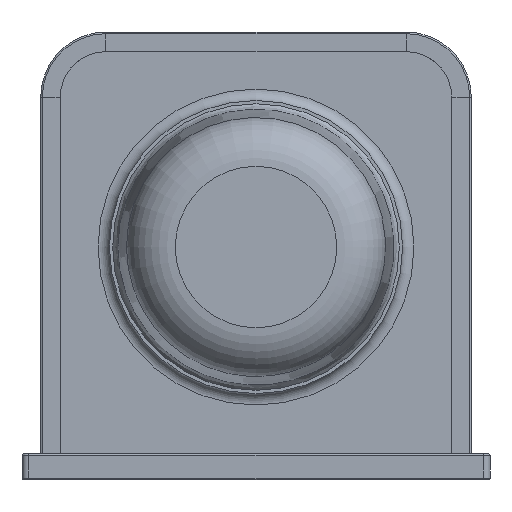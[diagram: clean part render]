
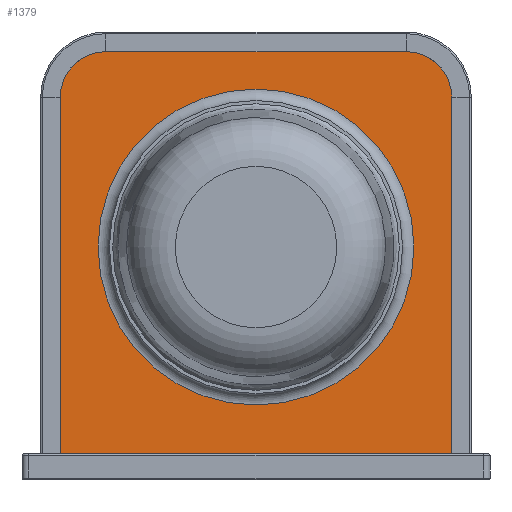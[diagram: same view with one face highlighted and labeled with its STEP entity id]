
A CAD part, front view. The second image highlights one B-rep face of the part: STEP entity #1379.
In plain terms, the highlighted planar face has unit normal (0, -1, 0).
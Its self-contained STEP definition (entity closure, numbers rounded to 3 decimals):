
#16=FACE_BOUND('',#446,.T.);
#24=B_SPLINE_CURVE_WITH_KNOTS('',3,(#4854,#4855,#4856,#4857,#4858,#4859,
#4860,#4861,#4862,#4863,#4864,#4865,#4866,#4867,#4868,#4869,#4870,#4871,
#4872,#4873,#4874,#4875,#4876,#4877,#4878,#4879,#4880,#4881,#4882,#4883,
#4884),.UNSPECIFIED.,.F.,.F.,(4,3,3,3,3,3,3,3,3,3,4),(0.,0.22,
0.44,0.661,0.881,1.101,1.321,
1.541,1.761,1.982,2.202),
 .UNSPECIFIED.);
#25=B_SPLINE_CURVE_WITH_KNOTS('',3,(#4888,#4889,#4890,#4891,#4892,#4893,
#4894,#4895,#4896,#4897,#4898,#4899,#4900,#4901,#4902,#4903,#4904,#4905,
#4906,#4907,#4908,#4909,#4910,#4911,#4912,#4913,#4914,#4915,#4916,#4917,
#4918),.UNSPECIFIED.,.F.,.F.,(4,3,3,3,3,3,3,3,3,3,4),(0.,0.22,
0.44,0.661,0.881,1.101,1.321,
1.541,1.761,1.982,2.202),
 .UNSPECIFIED.);
#167=LINE('',#4852,#253);
#168=LINE('',#4886,#254);
#169=LINE('',#4920,#255);
#170=LINE('',#4921,#256);
#253=VECTOR('',#2023,10.);
#254=VECTOR('',#2024,10.);
#255=VECTOR('',#2025,10.);
#256=VECTOR('',#2026,10.);
#351=FACE_OUTER_BOUND('',#445,.T.);
#445=EDGE_LOOP('',(#1220,#1221,#1222,#1223,#1224,#1225));
#446=EDGE_LOOP('',(#1226));
#552=CIRCLE('',#1584,48.5);
#664=VERTEX_POINT('',#4850);
#665=VERTEX_POINT('',#4851);
#666=VERTEX_POINT('',#4853);
#667=VERTEX_POINT('',#4885);
#668=VERTEX_POINT('',#4887);
#669=VERTEX_POINT('',#4919);
#670=VERTEX_POINT('',#4922);
#852=EDGE_CURVE('',#664,#665,#167,.T.);
#853=EDGE_CURVE('',#666,#664,#24,.T.);
#854=EDGE_CURVE('',#667,#666,#168,.T.);
#855=EDGE_CURVE('',#668,#667,#25,.T.);
#856=EDGE_CURVE('',#669,#668,#169,.T.);
#857=EDGE_CURVE('',#665,#669,#170,.T.);
#858=EDGE_CURVE('',#670,#670,#552,.T.);
#1220=ORIENTED_EDGE('',*,*,#852,.F.);
#1221=ORIENTED_EDGE('',*,*,#853,.F.);
#1222=ORIENTED_EDGE('',*,*,#854,.F.);
#1223=ORIENTED_EDGE('',*,*,#855,.F.);
#1224=ORIENTED_EDGE('',*,*,#856,.F.);
#1225=ORIENTED_EDGE('',*,*,#857,.F.);
#1226=ORIENTED_EDGE('',*,*,#858,.T.);
#1289=PLANE('',#1583);
#1379=ADVANCED_FACE('',(#351,#16),#1289,.F.);
#1583=AXIS2_PLACEMENT_3D('',#4849,#2021,#2022);
#1584=AXIS2_PLACEMENT_3D('',#4923,#2027,#2028);
#2021=DIRECTION('center_axis',(0.,1.,0.));
#2022=DIRECTION('ref_axis',(1.,0.,0.));
#2023=DIRECTION('',(0.,0.,-1.));
#2024=DIRECTION('',(1.,0.,0.));
#2025=DIRECTION('',(0.,0.,1.));
#2026=DIRECTION('',(-1.,0.,0.));
#2027=DIRECTION('center_axis',(0.,1.,0.));
#2028=DIRECTION('ref_axis',(-0.814,0.,-0.581));
#4849=CARTESIAN_POINT('Origin',(-1.65,1.85,1.825));
#4850=CARTESIAN_POINT('',(60.1,1.85,117.5));
#4851=CARTESIAN_POINT('',(60.1,1.85,8.));
#4852=CARTESIAN_POINT('',(60.1,1.85,117.5));
#4853=CARTESIAN_POINT('',(46.1,1.85,131.5));
#4854=CARTESIAN_POINT('Ctrl Pts',(46.1,1.85,131.5));
#4855=CARTESIAN_POINT('Ctrl Pts',(46.832,1.85,131.5));
#4856=CARTESIAN_POINT('Ctrl Pts',(47.566,1.85,131.442));
#4857=CARTESIAN_POINT('Ctrl Pts',(48.29,1.85,131.328));
#4858=CARTESIAN_POINT('Ctrl Pts',(49.014,1.85,131.213));
#4859=CARTESIAN_POINT('Ctrl Pts',(49.729,1.85,131.041));
#4860=CARTESIAN_POINT('Ctrl Pts',(50.426,1.85,130.815));
#4861=CARTESIAN_POINT('Ctrl Pts',(51.123,1.85,130.588));
#4862=CARTESIAN_POINT('Ctrl Pts',(51.803,1.85,130.307));
#4863=CARTESIAN_POINT('Ctrl Pts',(52.456,1.85,129.974));
#4864=CARTESIAN_POINT('Ctrl Pts',(53.109,1.85,129.641));
#4865=CARTESIAN_POINT('Ctrl Pts',(53.736,1.85,129.257));
#4866=CARTESIAN_POINT('Ctrl Pts',(54.329,1.85,128.826));
#4867=CARTESIAN_POINT('Ctrl Pts',(54.922,1.85,128.395));
#4868=CARTESIAN_POINT('Ctrl Pts',(55.481,1.85,127.918));
#4869=CARTESIAN_POINT('Ctrl Pts',(55.999,1.85,127.399));
#4870=CARTESIAN_POINT('Ctrl Pts',(56.518,1.85,126.881));
#4871=CARTESIAN_POINT('Ctrl Pts',(56.995,1.85,126.322));
#4872=CARTESIAN_POINT('Ctrl Pts',(57.426,1.85,125.729));
#4873=CARTESIAN_POINT('Ctrl Pts',(57.857,1.85,125.136));
#4874=CARTESIAN_POINT('Ctrl Pts',(58.241,1.85,124.509));
#4875=CARTESIAN_POINT('Ctrl Pts',(58.574,1.85,123.856));
#4876=CARTESIAN_POINT('Ctrl Pts',(58.907,1.85,123.203));
#4877=CARTESIAN_POINT('Ctrl Pts',(59.188,1.85,122.523));
#4878=CARTESIAN_POINT('Ctrl Pts',(59.415,1.85,121.826));
#4879=CARTESIAN_POINT('Ctrl Pts',(59.641,1.85,121.129));
#4880=CARTESIAN_POINT('Ctrl Pts',(59.813,1.85,120.414));
#4881=CARTESIAN_POINT('Ctrl Pts',(59.928,1.85,119.69));
#4882=CARTESIAN_POINT('Ctrl Pts',(60.042,1.85,118.966));
#4883=CARTESIAN_POINT('Ctrl Pts',(60.1,1.85,118.232));
#4884=CARTESIAN_POINT('Ctrl Pts',(60.1,1.85,117.5));
#4885=CARTESIAN_POINT('',(-46.1,1.85,131.5));
#4886=CARTESIAN_POINT('',(-46.1,1.85,131.5));
#4887=CARTESIAN_POINT('',(-60.1,1.85,117.5));
#4888=CARTESIAN_POINT('Ctrl Pts',(-60.1,1.85,117.5));
#4889=CARTESIAN_POINT('Ctrl Pts',(-60.1,1.85,118.232));
#4890=CARTESIAN_POINT('Ctrl Pts',(-60.042,1.85,118.966));
#4891=CARTESIAN_POINT('Ctrl Pts',(-59.928,1.85,119.69));
#4892=CARTESIAN_POINT('Ctrl Pts',(-59.813,1.85,120.414));
#4893=CARTESIAN_POINT('Ctrl Pts',(-59.641,1.85,121.129));
#4894=CARTESIAN_POINT('Ctrl Pts',(-59.415,1.85,121.826));
#4895=CARTESIAN_POINT('Ctrl Pts',(-59.188,1.85,122.523));
#4896=CARTESIAN_POINT('Ctrl Pts',(-58.907,1.85,123.203));
#4897=CARTESIAN_POINT('Ctrl Pts',(-58.574,1.85,123.856));
#4898=CARTESIAN_POINT('Ctrl Pts',(-58.241,1.85,124.509));
#4899=CARTESIAN_POINT('Ctrl Pts',(-57.857,1.85,125.136));
#4900=CARTESIAN_POINT('Ctrl Pts',(-57.426,1.85,125.729));
#4901=CARTESIAN_POINT('Ctrl Pts',(-56.995,1.85,126.322));
#4902=CARTESIAN_POINT('Ctrl Pts',(-56.518,1.85,126.881));
#4903=CARTESIAN_POINT('Ctrl Pts',(-55.999,1.85,127.399));
#4904=CARTESIAN_POINT('Ctrl Pts',(-55.481,1.85,127.918));
#4905=CARTESIAN_POINT('Ctrl Pts',(-54.922,1.85,128.395));
#4906=CARTESIAN_POINT('Ctrl Pts',(-54.329,1.85,128.826));
#4907=CARTESIAN_POINT('Ctrl Pts',(-53.736,1.85,129.257));
#4908=CARTESIAN_POINT('Ctrl Pts',(-53.109,1.85,129.641));
#4909=CARTESIAN_POINT('Ctrl Pts',(-52.456,1.85,129.974));
#4910=CARTESIAN_POINT('Ctrl Pts',(-51.803,1.85,130.307));
#4911=CARTESIAN_POINT('Ctrl Pts',(-51.123,1.85,130.588));
#4912=CARTESIAN_POINT('Ctrl Pts',(-50.426,1.85,130.815));
#4913=CARTESIAN_POINT('Ctrl Pts',(-49.729,1.85,131.041));
#4914=CARTESIAN_POINT('Ctrl Pts',(-49.014,1.85,131.213));
#4915=CARTESIAN_POINT('Ctrl Pts',(-48.29,1.85,131.328));
#4916=CARTESIAN_POINT('Ctrl Pts',(-47.566,1.85,131.442));
#4917=CARTESIAN_POINT('Ctrl Pts',(-46.832,1.85,131.5));
#4918=CARTESIAN_POINT('Ctrl Pts',(-46.1,1.85,131.5));
#4919=CARTESIAN_POINT('',(-60.1,1.85,8.));
#4920=CARTESIAN_POINT('',(-60.1,1.85,8.));
#4921=CARTESIAN_POINT('',(60.1,1.85,8.));
#4922=CARTESIAN_POINT('',(-48.5,1.85,71.5));
#4923=CARTESIAN_POINT('Origin',(0.,1.85,71.5));
